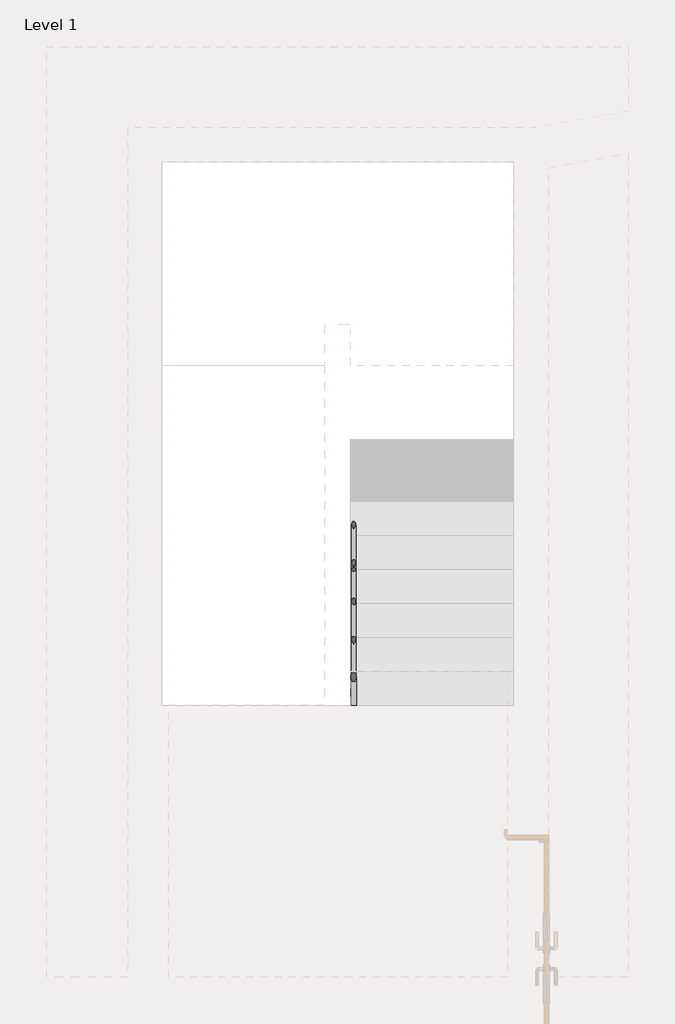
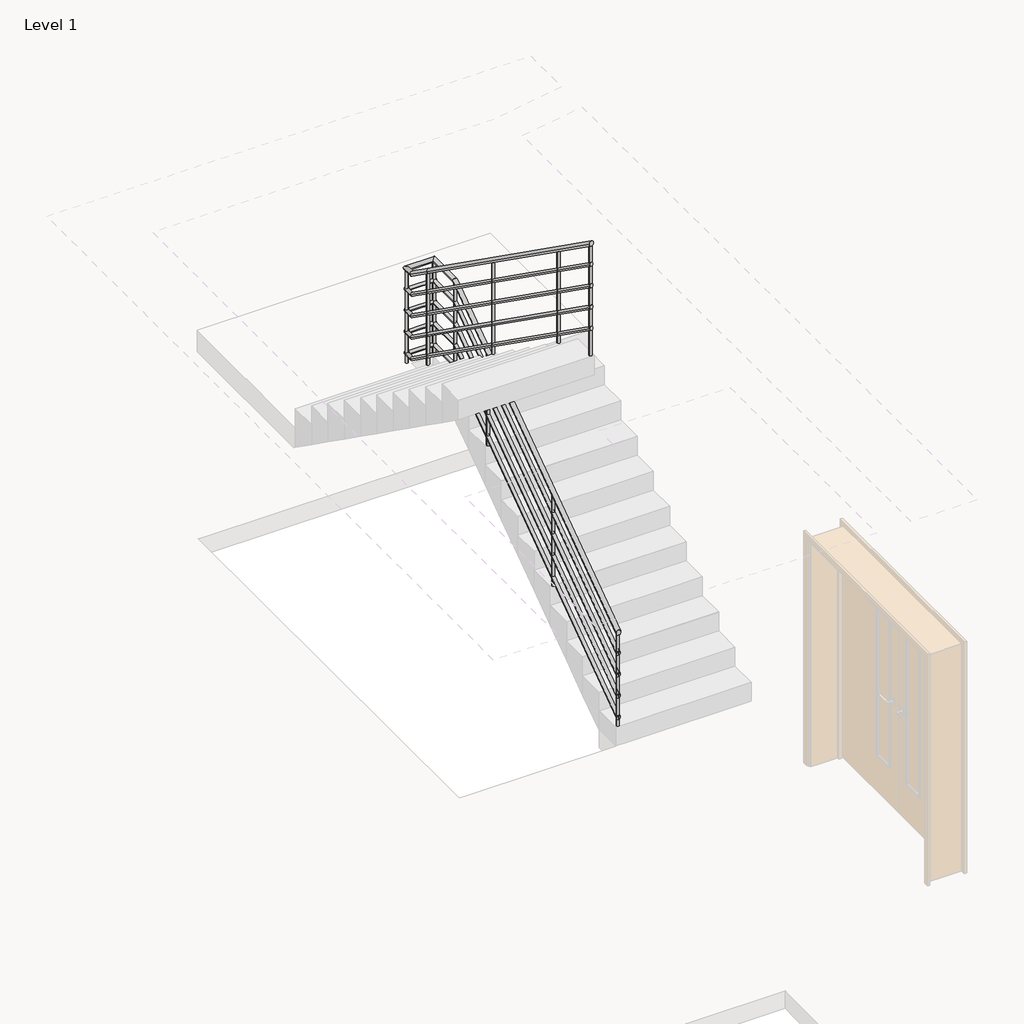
# One storey, part 11 of 12: 1 railing.
"""IFC4 building model written with IfcOpenShell, lengths in millimetres."""

from ifc_helpers import new_model, si_unit, point, frame, frame_2d, origin, place, context, project, spatial, circle_curve, ellipse_curve, trimmed, segment, composite_curve, outline, extrude, element, save
from ifc_brep_helpers import plane_surface, cylinder_surface, advanced_brep

model = new_model("IFC4")

# Units and contexts
model_context = context("Model", 3, world=origin())
ifc_project = project(units=[si_unit("LENGTHUNIT", "METRE", prefix="MILLI")], contexts=[model_context])

# Site, building, storey
site = spatial("IfcSite", under=ifc_project)
building = spatial("IfcBuilding", under=site)
storey = spatial("IfcBuildingStorey", under=building, Name="Level 1", Elevation=3900.0)

# Railing
placement = place(None, origin())
element("IfcRailing", 1, ObjectType="900mm_Pipe", at=placement, inside=storey, context=model_context, shape_type="SolidModel", body=[
    advanced_brep(
    [(29097.6000029, 3763.2000006, 4952.7548977), (29057.6000029, 3763.2000006, 4952.7548977), (29097.6000029, 6269.5712987, 6730.0), (29057.6000029, 6269.5712987, 6730.0), (29097.6000029, 6608.6000006, 6730.0), (29057.6000029, 6568.6000006, 6730.0), (28816.8000029, 6608.6000006, 6730.0), (28856.8000029, 6568.6000006, 6730.0), (28816.8000029, 6506.8287024, 6730.0), (28856.8000029, 6506.8287024, 6730.0), (28816.8000029, 6251.631425, 6910.9580695), (28856.8000029, 6251.631425, 6910.9580695), (28816.8000029, 3763.2000006, 8675.4821704), (28856.8000029, 3763.2000006, 8675.4821704)],
    [
        (0, 1, ellipse_curve(frame((29077.6000029, 3763.2000006, 4952.7548977), z_axis=(0.0, -1.0, 0.0), x_axis=(0.0, 0.0, -1.0)), 24.5178296, 20.0)),
        (1, 0, ellipse_curve(frame((29077.6000029, 3763.2000006, 4952.7548977), z_axis=(0.0, -1.0, 0.0), x_axis=(0.0, 0.0, -1.0)), 24.5178296, 20.0)),
        (0, 2),
        (2, 3, ellipse_curve(frame((29077.6000029, 6269.5712987, 6730.0), z_axis=(0.0, -0.9528202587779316, -0.3035350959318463), x_axis=(0.0, 0.30353509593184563, -0.952820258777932)), 20.9903178, 20.0)),
        (3, 1),
        (3, 2, ellipse_curve(frame((29077.6000029, 6269.5712987, 6730.0), z_axis=(0.0, -0.9528202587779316, -0.3035350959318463), x_axis=(0.0, 0.30353509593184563, -0.952820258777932)), 20.9903178, 20.0)),
        (2, 4),
        (4, 5, ellipse_curve(frame((29077.6000029, 6588.6000006, 6730.0), z_axis=(0.7071067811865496, -0.7071067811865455, 0.0), x_axis=(-0.7071067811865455, -0.7071067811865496, 0.0)), 28.2842712, 20.0)),
        (5, 3),
        (5, 4, ellipse_curve(frame((29077.6000029, 6588.6000006, 6730.0), z_axis=(0.7071067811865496, -0.7071067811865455, 0.0), x_axis=(-0.7071067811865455, -0.7071067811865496, 0.0)), 28.2842712, 20.0)),
        (4, 6),
        (6, 7, ellipse_curve(frame((28836.8000029, 6588.6000006, 6730.0), z_axis=(0.7071067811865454, 0.7071067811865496, 0.0), x_axis=(0.7071067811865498, -0.7071067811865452, 0.0)), 28.2842712, 20.0)),
        (7, 5),
        (7, 6, ellipse_curve(frame((28836.8000029, 6588.6000006, 6730.0), z_axis=(0.7071067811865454, 0.7071067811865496, 0.0), x_axis=(0.7071067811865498, -0.7071067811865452, 0.0)), 28.2842712, 20.0)),
        (6, 8),
        (8, 9, ellipse_curve(frame((28836.8000029, 6506.8287024, 6730.0), z_axis=(0.0, 0.9528202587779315, -0.3035350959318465), x_axis=(0.0, 0.3035350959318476, 0.9528202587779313)), 20.9903178, 20.0)),
        (9, 7),
        (9, 8, ellipse_curve(frame((28836.8000029, 6506.8287024, 6730.0), z_axis=(0.0, 0.9528202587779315, -0.3035350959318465), x_axis=(0.0, 0.3035350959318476, 0.9528202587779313)), 20.9903178, 20.0)),
        (8, 10),
        (10, 11, circle_curve(frame((28836.8000029, 6251.631425, 6910.9580695), z_axis=(0.0, 0.8157328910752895, -0.5784287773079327), x_axis=(1.0, 0.0, 0.0)), 20.0)),
        (11, 9),
        (11, 10, circle_curve(frame((28836.8000029, 6251.631425, 6910.9580695), z_axis=(0.0, 0.8157328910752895, -0.5784287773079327), x_axis=(1.0, 0.0, 0.0)), 20.0)),
        (12, 13, ellipse_curve(frame((28836.8000029, 3763.2000006, 8675.4821704), z_axis=(0.0, -1.0, 0.0), x_axis=(0.0, 0.0, -1.0)), 24.5178296, 20.0)),
        (13, 12, ellipse_curve(frame((28836.8000029, 3763.2000006, 8675.4821704), z_axis=(0.0, -1.0, 0.0), x_axis=(0.0, 0.0, -1.0)), 24.5178296, 20.0)),
        (10, 12),
        (13, 11),
    ],
    [
        plane_surface(frame((29077.6000029, 3763.2000006, 4977.2727273), z_axis=(0.0, -1.0, 0.0), x_axis=(0.0, 0.0, 1.0))),
        cylinder_surface(frame((29077.6000029, 3774.7685761, 4960.9580695), z_axis=(0.0, -0.8157328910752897, -0.5784287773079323), x_axis=(-1.0, 0.0, 0.0)), 20.0),
        cylinder_surface(frame((29077.6000029, 6263.2000006, 6730.0), z_axis=(0.0, -1.0, 0.0), x_axis=(-1.0, 0.0, 0.0)), 20.0),
        cylinder_surface(frame((29077.6000029, 6588.6000006, 6730.0), z_axis=(1.0, 0.0, 0.0), x_axis=(0.0, -1.0, 0.0)), 20.0),
        cylinder_surface(frame((28836.8000029, 6588.6000006, 6730.0), z_axis=(0.0, 1.0, 0.0), x_axis=(1.0, 0.0, 0.0)), 20.0),
        cylinder_surface(frame((28836.8000029, 6501.631425, 6733.6853422), z_axis=(0.0, 0.8157328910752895, -0.5784287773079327), x_axis=(1.0, 0.0, 0.0)), 20.0),
        plane_surface(frame((28836.8000029, 3763.2000006, 8700.0), z_axis=(0.0, -1.0, 0.0), x_axis=(0.0, 0.0, -1.0))),
        cylinder_surface(frame((28836.8000029, 6251.631425, 6910.9580695), z_axis=(0.0, 0.8157328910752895, -0.5784287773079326), x_axis=(1.0, 0.0, 0.0)), 20.0),
    ],
    [
        (0, [[1, 2]]),
        (1, [[-1, 3, 4, 5]]),
        (1, [[-2, -5, 6, -3]]),
        (2, [[-4, 7, 8, 9]]),
        (2, [[-6, -9, 10, -7]]),
        (3, [[-8, 11, 12, 13]]),
        (3, [[-10, -13, 14, -11]]),
        (4, [[-12, 15, 16, 17]]),
        (4, [[-14, -17, 18, -15]]),
        (5, [[-16, 19, 20, 21]]),
        (5, [[-18, -21, 22, -19]]),
        (6, [[23, 24]]),
        (7, [[-20, 25, -24, 26]]),
        (7, [[-22, -26, -23, -25]]),
    ],
),
    advanced_brep(
    [(29092.6000029, 3763.2000006, 4758.8843551), (29062.6000029, 3763.2000006, 4758.8843551), (29092.6000029, 6263.2000006, 6531.6116278), (29062.6000029, 6263.2000006, 6531.6116278)],
    [
        (0, 1, ellipse_curve(frame((29077.6000029, 3763.2000006, 4758.8843551), z_axis=(0.0, -1.0, 0.0), x_axis=(0.0, 0.0, -1.0)), 18.3883722, 15.0)),
        (1, 0, ellipse_curve(frame((29077.6000029, 3763.2000006, 4758.8843551), z_axis=(0.0, -1.0, 0.0), x_axis=(0.0, 0.0, -1.0)), 18.3883722, 15.0)),
        (2, 3, ellipse_curve(frame((29077.6000029, 6263.2000006, 6531.6116278), z_axis=(0.0, 1.0, 0.0), x_axis=(0.0, 0.0, -1.0)), 18.3883722, 15.0)),
        (3, 2, ellipse_curve(frame((29077.6000029, 6263.2000006, 6531.6116278), z_axis=(0.0, 1.0, 0.0), x_axis=(0.0, 0.0, -1.0)), 18.3883722, 15.0)),
        (0, 2),
        (3, 1),
    ],
    [
        plane_surface(frame((29077.6000029, 3763.2000006, 4777.2727273), z_axis=(0.0, -1.0, 0.0), x_axis=(0.0, 0.0, 1.0))),
        plane_surface(frame((29077.6000029, 6263.2000006, 6550.0), z_axis=(0.0, 1.0, 0.0), x_axis=(0.0, 0.0, 1.0))),
        cylinder_surface(frame((29077.6000029, 3771.8764322, 4765.0367339), z_axis=(0.0, -0.8157328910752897, -0.5784287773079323), x_axis=(-1.0, 0.0, 0.0)), 15.0),
    ],
    [
        (0, [[1, 2]]),
        (1, [[3, 4]]),
        (2, [[-1, 5, -4, 6]]),
        (2, [[-2, -6, -3, -5]]),
    ],
),
    advanced_brep(
    [(29092.6000029, 6263.2000006, 6535.0), (29062.6000029, 6263.2000006, 6535.0), (29092.6000029, 6573.6000006, 6535.0), (29062.6000029, 6573.6000006, 6535.0)],
    [
        (0, 1, circle_curve(frame((29077.6000029, 6263.2000006, 6535.0), z_axis=(0.0, -1.0, 0.0), x_axis=(-1.0, 0.0, 0.0)), 15.0)),
        (1, 0, circle_curve(frame((29077.6000029, 6263.2000006, 6535.0), z_axis=(0.0, -1.0, 0.0), x_axis=(-1.0, 0.0, 0.0)), 15.0)),
        (2, 3, circle_curve(frame((29077.6000029, 6573.6000006, 6535.0), z_axis=(0.0, 1.0, 0.0), x_axis=(-1.0, 0.0, 0.0)), 15.0)),
        (3, 2, circle_curve(frame((29077.6000029, 6573.6000006, 6535.0), z_axis=(0.0, 1.0, 0.0), x_axis=(-1.0, 0.0, 0.0)), 15.0)),
        (0, 2),
        (3, 1),
    ],
    [
        plane_surface(frame((29077.6000029, 6263.2000006, 6550.0), z_axis=(0.0, -1.0, 0.0), x_axis=(0.0, 0.0, 1.0))),
        plane_surface(frame((29077.6000029, 6573.6000006, 6550.0), z_axis=(0.0, 1.0, 0.0), x_axis=(0.0, 0.0, 1.0))),
        cylinder_surface(frame((29077.6000029, 6263.2000006, 6535.0), z_axis=(0.0, -1.0, 0.0), x_axis=(-1.0, 0.0, 0.0)), 15.0),
    ],
    [
        (0, [[1, 2]]),
        (1, [[3, 4]]),
        (2, [[-1, 5, -4, 6]]),
        (2, [[-2, -6, -3, -5]]),
    ],
),
    advanced_brep(
    [(29092.6000029, 6603.6000006, 6535.0), (29092.6000029, 6573.6000006, 6535.0), (28851.8000029, 6603.6000006, 6535.0), (28851.8000029, 6573.6000006, 6535.0)],
    [
        (0, 1, circle_curve(frame((29092.6000029, 6588.6000006, 6535.0), z_axis=(1.0, 0.0, 0.0), x_axis=(0.0, -1.0, 0.0)), 15.0)),
        (1, 0, circle_curve(frame((29092.6000029, 6588.6000006, 6535.0), z_axis=(1.0, 0.0, 0.0), x_axis=(0.0, -1.0, 0.0)), 15.0)),
        (2, 3, circle_curve(frame((28851.8000029, 6588.6000006, 6535.0), z_axis=(-1.0, 0.0, 0.0), x_axis=(0.0, -1.0, 0.0)), 15.0)),
        (3, 2, circle_curve(frame((28851.8000029, 6588.6000006, 6535.0), z_axis=(-1.0, 0.0, 0.0), x_axis=(0.0, -1.0, 0.0)), 15.0)),
        (0, 2),
        (3, 1),
    ],
    [
        plane_surface(frame((29092.6000029, 6588.6000006, 6550.0), z_axis=(1.0, 0.0, 0.0), x_axis=(0.0, -1.0, 0.0))),
        plane_surface(frame((28851.8000029, 6588.6000006, 6550.0), z_axis=(-1.0, 0.0, 0.0), x_axis=(0.0, -1.0, 0.0))),
        cylinder_surface(frame((29092.6000029, 6588.6000006, 6535.0), z_axis=(1.0, 0.0, 0.0), x_axis=(0.0, -1.0, 0.0)), 15.0),
    ],
    [
        (0, [[1, 2]]),
        (1, [[3, 4]]),
        (2, [[-1, 5, -4, 6]]),
        (2, [[-2, -6, -3, -5]]),
    ],
),
    advanced_brep(
    [(28821.8000029, 6603.6000006, 6535.0), (28851.8000029, 6603.6000006, 6535.0), (28821.8000029, 6508.421527, 6535.0), (28851.8000029, 6508.421527, 6535.0), (28821.8000029, 6263.2000006, 6708.8843551), (28851.8000029, 6263.2000006, 6708.8843551)],
    [
        (0, 1, circle_curve(frame((28836.8000029, 6603.6000006, 6535.0), z_axis=(0.0, 1.0, 0.0), x_axis=(1.0, 0.0, 0.0)), 15.0)),
        (1, 0, circle_curve(frame((28836.8000029, 6603.6000006, 6535.0), z_axis=(0.0, 1.0, 0.0), x_axis=(1.0, 0.0, 0.0)), 15.0)),
        (0, 2),
        (2, 3, ellipse_curve(frame((28836.8000029, 6508.421527, 6535.0), z_axis=(0.0, 0.9528202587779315, -0.3035350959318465), x_axis=(0.0, 0.3035350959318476, 0.9528202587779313)), 15.7427383, 15.0)),
        (3, 1),
        (3, 2, ellipse_curve(frame((28836.8000029, 6508.421527, 6535.0), z_axis=(0.0, 0.9528202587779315, -0.3035350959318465), x_axis=(0.0, 0.3035350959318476, 0.9528202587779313)), 15.7427383, 15.0)),
        (4, 5, ellipse_curve(frame((28836.8000029, 6263.2000006, 6708.8843551), z_axis=(0.0, -1.0, 0.0), x_axis=(0.0, 0.0, -1.0)), 18.3883722, 15.0)),
        (5, 4, ellipse_curve(frame((28836.8000029, 6263.2000006, 6708.8843551), z_axis=(0.0, -1.0, 0.0), x_axis=(0.0, 0.0, -1.0)), 18.3883722, 15.0)),
        (2, 4),
        (5, 3),
    ],
    [
        plane_surface(frame((28836.8000029, 6603.6000006, 6550.0), z_axis=(0.0, 1.0, 0.0), x_axis=(0.0, 0.0, -1.0))),
        cylinder_surface(frame((28836.8000029, 6603.6000006, 6535.0), z_axis=(0.0, 1.0, 0.0), x_axis=(1.0, 0.0, 0.0)), 15.0),
        plane_surface(frame((28836.8000029, 6263.2000006, 6727.2727273), z_axis=(0.0, -1.0, 0.0), x_axis=(0.0, 0.0, -1.0))),
        cylinder_surface(frame((28836.8000029, 6504.5235689, 6537.7640066), z_axis=(0.0, 0.8157328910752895, -0.5784287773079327), x_axis=(1.0, 0.0, 0.0)), 15.0),
    ],
    [
        (0, [[1, 2]]),
        (1, [[-1, 3, 4, 5]]),
        (1, [[-2, -5, 6, -3]]),
        (2, [[7, 8]]),
        (3, [[-4, 9, -8, 10]]),
        (3, [[-6, -10, -7, -9]]),
    ],
),
    advanced_brep(
    [(28821.8000029, 6263.2000006, 6708.8843551), (28851.8000029, 6263.2000006, 6708.8843551), (28821.8000029, 3763.2000006, 8481.6116278), (28851.8000029, 3763.2000006, 8481.6116278)],
    [
        (0, 1, ellipse_curve(frame((28836.8000029, 6263.2000006, 6708.8843551), z_axis=(0.0, 1.0, 0.0), x_axis=(0.0, 0.0, -1.0)), 18.3883722, 15.0)),
        (1, 0, ellipse_curve(frame((28836.8000029, 6263.2000006, 6708.8843551), z_axis=(0.0, 1.0, 0.0), x_axis=(0.0, 0.0, -1.0)), 18.3883722, 15.0)),
        (2, 3, ellipse_curve(frame((28836.8000029, 3763.2000006, 8481.6116278), z_axis=(0.0, -1.0, 0.0), x_axis=(0.0, 0.0, -1.0)), 18.3883722, 15.0)),
        (3, 2, ellipse_curve(frame((28836.8000029, 3763.2000006, 8481.6116278), z_axis=(0.0, -1.0, 0.0), x_axis=(0.0, 0.0, -1.0)), 18.3883722, 15.0)),
        (0, 2),
        (3, 1),
    ],
    [
        plane_surface(frame((28836.8000029, 6263.2000006, 6727.2727273), z_axis=(0.0, 1.0, 0.0), x_axis=(0.0, 0.0, -1.0))),
        plane_surface(frame((28836.8000029, 3763.2000006, 8500.0), z_axis=(0.0, -1.0, 0.0), x_axis=(0.0, 0.0, -1.0))),
        cylinder_surface(frame((28836.8000029, 6254.5235689, 6715.0367339), z_axis=(0.0, 0.8157328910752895, -0.5784287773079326), x_axis=(1.0, 0.0, 0.0)), 15.0),
    ],
    [
        (0, [[1, 2]]),
        (1, [[3, 4]]),
        (2, [[-1, 5, -4, 6]]),
        (2, [[-2, -6, -3, -5]]),
    ],
),
    advanced_brep(
    [(29092.6000029, 3763.2000006, 4558.8843551), (29062.6000029, 3763.2000006, 4558.8843551), (29092.6000029, 6263.2000006, 6331.6116278), (29062.6000029, 6263.2000006, 6331.6116278)],
    [
        (0, 1, ellipse_curve(frame((29077.6000029, 3763.2000006, 4558.8843551), z_axis=(0.0, -1.0, 0.0), x_axis=(0.0, 0.0, -1.0)), 18.3883722, 15.0)),
        (1, 0, ellipse_curve(frame((29077.6000029, 3763.2000006, 4558.8843551), z_axis=(0.0, -1.0, 0.0), x_axis=(0.0, 0.0, -1.0)), 18.3883722, 15.0)),
        (2, 3, ellipse_curve(frame((29077.6000029, 6263.2000006, 6331.6116278), z_axis=(0.0, 1.0, 0.0), x_axis=(0.0, 0.0, -1.0)), 18.3883722, 15.0)),
        (3, 2, ellipse_curve(frame((29077.6000029, 6263.2000006, 6331.6116278), z_axis=(0.0, 1.0, 0.0), x_axis=(0.0, 0.0, -1.0)), 18.3883722, 15.0)),
        (0, 2),
        (3, 1),
    ],
    [
        plane_surface(frame((29077.6000029, 3763.2000006, 4577.2727273), z_axis=(0.0, -1.0, 0.0), x_axis=(0.0, 0.0, 1.0))),
        plane_surface(frame((29077.6000029, 6263.2000006, 6350.0), z_axis=(0.0, 1.0, 0.0), x_axis=(0.0, 0.0, 1.0))),
        cylinder_surface(frame((29077.6000029, 3771.8764322, 4565.0367339), z_axis=(0.0, -0.8157328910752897, -0.5784287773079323), x_axis=(-1.0, 0.0, 0.0)), 15.0),
    ],
    [
        (0, [[1, 2]]),
        (1, [[3, 4]]),
        (2, [[-1, 5, -4, 6]]),
        (2, [[-2, -6, -3, -5]]),
    ],
),
    advanced_brep(
    [(29092.6000029, 6263.2000006, 6335.0), (29062.6000029, 6263.2000006, 6335.0), (29092.6000029, 6573.6000006, 6335.0), (29062.6000029, 6573.6000006, 6335.0)],
    [
        (0, 1, circle_curve(frame((29077.6000029, 6263.2000006, 6335.0), z_axis=(0.0, -1.0, 0.0), x_axis=(-1.0, 0.0, 0.0)), 15.0)),
        (1, 0, circle_curve(frame((29077.6000029, 6263.2000006, 6335.0), z_axis=(0.0, -1.0, 0.0), x_axis=(-1.0, 0.0, 0.0)), 15.0)),
        (2, 3, circle_curve(frame((29077.6000029, 6573.6000006, 6335.0), z_axis=(0.0, 1.0, 0.0), x_axis=(-1.0, 0.0, 0.0)), 15.0)),
        (3, 2, circle_curve(frame((29077.6000029, 6573.6000006, 6335.0), z_axis=(0.0, 1.0, 0.0), x_axis=(-1.0, 0.0, 0.0)), 15.0)),
        (0, 2),
        (3, 1),
    ],
    [
        plane_surface(frame((29077.6000029, 6263.2000006, 6350.0), z_axis=(0.0, -1.0, 0.0), x_axis=(0.0, 0.0, 1.0))),
        plane_surface(frame((29077.6000029, 6573.6000006, 6350.0), z_axis=(0.0, 1.0, 0.0), x_axis=(0.0, 0.0, 1.0))),
        cylinder_surface(frame((29077.6000029, 6263.2000006, 6335.0), z_axis=(0.0, -1.0, 0.0), x_axis=(-1.0, 0.0, 0.0)), 15.0),
    ],
    [
        (0, [[1, 2]]),
        (1, [[3, 4]]),
        (2, [[-1, 5, -4, 6]]),
        (2, [[-2, -6, -3, -5]]),
    ],
),
    advanced_brep(
    [(29092.6000029, 6603.6000006, 6335.0), (29092.6000029, 6573.6000006, 6335.0), (28851.8000029, 6603.6000006, 6335.0), (28851.8000029, 6573.6000006, 6335.0)],
    [
        (0, 1, circle_curve(frame((29092.6000029, 6588.6000006, 6335.0), z_axis=(1.0, 0.0, 0.0), x_axis=(0.0, -1.0, 0.0)), 15.0)),
        (1, 0, circle_curve(frame((29092.6000029, 6588.6000006, 6335.0), z_axis=(1.0, 0.0, 0.0), x_axis=(0.0, -1.0, 0.0)), 15.0)),
        (2, 3, circle_curve(frame((28851.8000029, 6588.6000006, 6335.0), z_axis=(-1.0, 0.0, 0.0), x_axis=(0.0, -1.0, 0.0)), 15.0)),
        (3, 2, circle_curve(frame((28851.8000029, 6588.6000006, 6335.0), z_axis=(-1.0, 0.0, 0.0), x_axis=(0.0, -1.0, 0.0)), 15.0)),
        (0, 2),
        (3, 1),
    ],
    [
        plane_surface(frame((29092.6000029, 6588.6000006, 6350.0), z_axis=(1.0, 0.0, 0.0), x_axis=(0.0, -1.0, 0.0))),
        plane_surface(frame((28851.8000029, 6588.6000006, 6350.0), z_axis=(-1.0, 0.0, 0.0), x_axis=(0.0, -1.0, 0.0))),
        cylinder_surface(frame((29092.6000029, 6588.6000006, 6335.0), z_axis=(1.0, 0.0, 0.0), x_axis=(0.0, -1.0, 0.0)), 15.0),
    ],
    [
        (0, [[1, 2]]),
        (1, [[3, 4]]),
        (2, [[-1, 5, -4, 6]]),
        (2, [[-2, -6, -3, -5]]),
    ],
),
    advanced_brep(
    [(28821.8000029, 6603.6000006, 6335.0), (28851.8000029, 6603.6000006, 6335.0), (28821.8000029, 6508.421527, 6335.0), (28851.8000029, 6508.421527, 6335.0), (28821.8000029, 6263.2000006, 6508.8843551), (28851.8000029, 6263.2000006, 6508.8843551)],
    [
        (0, 1, circle_curve(frame((28836.8000029, 6603.6000006, 6335.0), z_axis=(0.0, 1.0, 0.0), x_axis=(1.0, 0.0, 0.0)), 15.0)),
        (1, 0, circle_curve(frame((28836.8000029, 6603.6000006, 6335.0), z_axis=(0.0, 1.0, 0.0), x_axis=(1.0, 0.0, 0.0)), 15.0)),
        (0, 2),
        (2, 3, ellipse_curve(frame((28836.8000029, 6508.421527, 6335.0), z_axis=(0.0, 0.9528202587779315, -0.3035350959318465), x_axis=(0.0, 0.3035350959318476, 0.9528202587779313)), 15.7427383, 15.0)),
        (3, 1),
        (3, 2, ellipse_curve(frame((28836.8000029, 6508.421527, 6335.0), z_axis=(0.0, 0.9528202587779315, -0.3035350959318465), x_axis=(0.0, 0.3035350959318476, 0.9528202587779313)), 15.7427383, 15.0)),
        (4, 5, ellipse_curve(frame((28836.8000029, 6263.2000006, 6508.8843551), z_axis=(0.0, -1.0, 0.0), x_axis=(0.0, 0.0, -1.0)), 18.3883722, 15.0)),
        (5, 4, ellipse_curve(frame((28836.8000029, 6263.2000006, 6508.8843551), z_axis=(0.0, -1.0, 0.0), x_axis=(0.0, 0.0, -1.0)), 18.3883722, 15.0)),
        (2, 4),
        (5, 3),
    ],
    [
        plane_surface(frame((28836.8000029, 6603.6000006, 6350.0), z_axis=(0.0, 1.0, 0.0), x_axis=(0.0, 0.0, -1.0))),
        cylinder_surface(frame((28836.8000029, 6603.6000006, 6335.0), z_axis=(0.0, 1.0, 0.0), x_axis=(1.0, 0.0, 0.0)), 15.0),
        plane_surface(frame((28836.8000029, 6263.2000006, 6527.2727273), z_axis=(0.0, -1.0, 0.0), x_axis=(0.0, 0.0, -1.0))),
        cylinder_surface(frame((28836.8000029, 6504.5235689, 6337.7640066), z_axis=(0.0, 0.8157328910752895, -0.5784287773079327), x_axis=(1.0, 0.0, 0.0)), 15.0),
    ],
    [
        (0, [[1, 2]]),
        (1, [[-1, 3, 4, 5]]),
        (1, [[-2, -5, 6, -3]]),
        (2, [[7, 8]]),
        (3, [[-4, 9, -8, 10]]),
        (3, [[-6, -10, -7, -9]]),
    ],
),
    advanced_brep(
    [(28821.8000029, 6263.2000006, 6508.8843551), (28851.8000029, 6263.2000006, 6508.8843551), (28821.8000029, 3763.2000006, 8281.6116278), (28851.8000029, 3763.2000006, 8281.6116278)],
    [
        (0, 1, ellipse_curve(frame((28836.8000029, 6263.2000006, 6508.8843551), z_axis=(0.0, 1.0, 0.0), x_axis=(0.0, 0.0, -1.0)), 18.3883722, 15.0)),
        (1, 0, ellipse_curve(frame((28836.8000029, 6263.2000006, 6508.8843551), z_axis=(0.0, 1.0, 0.0), x_axis=(0.0, 0.0, -1.0)), 18.3883722, 15.0)),
        (2, 3, ellipse_curve(frame((28836.8000029, 3763.2000006, 8281.6116278), z_axis=(0.0, -1.0, 0.0), x_axis=(0.0, 0.0, -1.0)), 18.3883722, 15.0)),
        (3, 2, ellipse_curve(frame((28836.8000029, 3763.2000006, 8281.6116278), z_axis=(0.0, -1.0, 0.0), x_axis=(0.0, 0.0, -1.0)), 18.3883722, 15.0)),
        (0, 2),
        (3, 1),
    ],
    [
        plane_surface(frame((28836.8000029, 6263.2000006, 6527.2727273), z_axis=(0.0, 1.0, 0.0), x_axis=(0.0, 0.0, -1.0))),
        plane_surface(frame((28836.8000029, 3763.2000006, 8300.0), z_axis=(0.0, -1.0, 0.0), x_axis=(0.0, 0.0, -1.0))),
        cylinder_surface(frame((28836.8000029, 6254.5235689, 6515.0367339), z_axis=(0.0, 0.8157328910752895, -0.5784287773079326), x_axis=(1.0, 0.0, 0.0)), 15.0),
    ],
    [
        (0, [[1, 2]]),
        (1, [[3, 4]]),
        (2, [[-1, 5, -4, 6]]),
        (2, [[-2, -6, -3, -5]]),
    ],
),
    advanced_brep(
    [(29092.6000029, 3763.2000006, 4358.8843551), (29062.6000029, 3763.2000006, 4358.8843551), (29092.6000029, 6263.2000006, 6131.6116278), (29062.6000029, 6263.2000006, 6131.6116278)],
    [
        (0, 1, ellipse_curve(frame((29077.6000029, 3763.2000006, 4358.8843551), z_axis=(0.0, -1.0, 0.0), x_axis=(0.0, 0.0, -1.0)), 18.3883722, 15.0)),
        (1, 0, ellipse_curve(frame((29077.6000029, 3763.2000006, 4358.8843551), z_axis=(0.0, -1.0, 0.0), x_axis=(0.0, 0.0, -1.0)), 18.3883722, 15.0)),
        (2, 3, ellipse_curve(frame((29077.6000029, 6263.2000006, 6131.6116278), z_axis=(0.0, 1.0, 0.0), x_axis=(0.0, 0.0, -1.0)), 18.3883722, 15.0)),
        (3, 2, ellipse_curve(frame((29077.6000029, 6263.2000006, 6131.6116278), z_axis=(0.0, 1.0, 0.0), x_axis=(0.0, 0.0, -1.0)), 18.3883722, 15.0)),
        (0, 2),
        (3, 1),
    ],
    [
        plane_surface(frame((29077.6000029, 3763.2000006, 4377.2727273), z_axis=(0.0, -1.0, 0.0), x_axis=(0.0, 0.0, 1.0))),
        plane_surface(frame((29077.6000029, 6263.2000006, 6150.0), z_axis=(0.0, 1.0, 0.0), x_axis=(0.0, 0.0, 1.0))),
        cylinder_surface(frame((29077.6000029, 3771.8764322, 4365.0367339), z_axis=(0.0, -0.8157328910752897, -0.5784287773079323), x_axis=(-1.0, 0.0, 0.0)), 15.0),
    ],
    [
        (0, [[1, 2]]),
        (1, [[3, 4]]),
        (2, [[-1, 5, -4, 6]]),
        (2, [[-2, -6, -3, -5]]),
    ],
),
    advanced_brep(
    [(29092.6000029, 6263.2000006, 6135.0), (29062.6000029, 6263.2000006, 6135.0), (29092.6000029, 6573.6000006, 6135.0), (29062.6000029, 6573.6000006, 6135.0)],
    [
        (0, 1, circle_curve(frame((29077.6000029, 6263.2000006, 6135.0), z_axis=(0.0, -1.0, 0.0), x_axis=(-1.0, 0.0, 0.0)), 15.0)),
        (1, 0, circle_curve(frame((29077.6000029, 6263.2000006, 6135.0), z_axis=(0.0, -1.0, 0.0), x_axis=(-1.0, 0.0, 0.0)), 15.0)),
        (2, 3, circle_curve(frame((29077.6000029, 6573.6000006, 6135.0), z_axis=(0.0, 1.0, 0.0), x_axis=(-1.0, 0.0, 0.0)), 15.0)),
        (3, 2, circle_curve(frame((29077.6000029, 6573.6000006, 6135.0), z_axis=(0.0, 1.0, 0.0), x_axis=(-1.0, 0.0, 0.0)), 15.0)),
        (0, 2),
        (3, 1),
    ],
    [
        plane_surface(frame((29077.6000029, 6263.2000006, 6150.0), z_axis=(0.0, -1.0, 0.0), x_axis=(0.0, 0.0, 1.0))),
        plane_surface(frame((29077.6000029, 6573.6000006, 6150.0), z_axis=(0.0, 1.0, 0.0), x_axis=(0.0, 0.0, 1.0))),
        cylinder_surface(frame((29077.6000029, 6263.2000006, 6135.0), z_axis=(0.0, -1.0, 0.0), x_axis=(-1.0, 0.0, 0.0)), 15.0),
    ],
    [
        (0, [[1, 2]]),
        (1, [[3, 4]]),
        (2, [[-1, 5, -4, 6]]),
        (2, [[-2, -6, -3, -5]]),
    ],
),
    advanced_brep(
    [(29092.6000029, 6603.6000006, 6135.0), (29092.6000029, 6573.6000006, 6135.0), (28851.8000029, 6603.6000006, 6135.0), (28851.8000029, 6573.6000006, 6135.0)],
    [
        (0, 1, circle_curve(frame((29092.6000029, 6588.6000006, 6135.0), z_axis=(1.0, 0.0, 0.0), x_axis=(0.0, -1.0, 0.0)), 15.0)),
        (1, 0, circle_curve(frame((29092.6000029, 6588.6000006, 6135.0), z_axis=(1.0, 0.0, 0.0), x_axis=(0.0, -1.0, 0.0)), 15.0)),
        (2, 3, circle_curve(frame((28851.8000029, 6588.6000006, 6135.0), z_axis=(-1.0, 0.0, 0.0), x_axis=(0.0, -1.0, 0.0)), 15.0)),
        (3, 2, circle_curve(frame((28851.8000029, 6588.6000006, 6135.0), z_axis=(-1.0, 0.0, 0.0), x_axis=(0.0, -1.0, 0.0)), 15.0)),
        (0, 2),
        (3, 1),
    ],
    [
        plane_surface(frame((29092.6000029, 6588.6000006, 6150.0), z_axis=(1.0, 0.0, 0.0), x_axis=(0.0, -1.0, 0.0))),
        plane_surface(frame((28851.8000029, 6588.6000006, 6150.0), z_axis=(-1.0, 0.0, 0.0), x_axis=(0.0, -1.0, 0.0))),
        cylinder_surface(frame((29092.6000029, 6588.6000006, 6135.0), z_axis=(1.0, 0.0, 0.0), x_axis=(0.0, -1.0, 0.0)), 15.0),
    ],
    [
        (0, [[1, 2]]),
        (1, [[3, 4]]),
        (2, [[-1, 5, -4, 6]]),
        (2, [[-2, -6, -3, -5]]),
    ],
),
    advanced_brep(
    [(28821.8000029, 6603.6000006, 6135.0), (28851.8000029, 6603.6000006, 6135.0), (28821.8000029, 6508.421527, 6135.0), (28851.8000029, 6508.421527, 6135.0), (28821.8000029, 6263.2000006, 6308.8843551), (28851.8000029, 6263.2000006, 6308.8843551)],
    [
        (0, 1, circle_curve(frame((28836.8000029, 6603.6000006, 6135.0), z_axis=(0.0, 1.0, 0.0), x_axis=(1.0, 0.0, 0.0)), 15.0)),
        (1, 0, circle_curve(frame((28836.8000029, 6603.6000006, 6135.0), z_axis=(0.0, 1.0, 0.0), x_axis=(1.0, 0.0, 0.0)), 15.0)),
        (0, 2),
        (2, 3, ellipse_curve(frame((28836.8000029, 6508.421527, 6135.0), z_axis=(0.0, 0.9528202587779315, -0.3035350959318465), x_axis=(0.0, 0.3035350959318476, 0.9528202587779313)), 15.7427383, 15.0)),
        (3, 1),
        (3, 2, ellipse_curve(frame((28836.8000029, 6508.421527, 6135.0), z_axis=(0.0, 0.9528202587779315, -0.3035350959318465), x_axis=(0.0, 0.3035350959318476, 0.9528202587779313)), 15.7427383, 15.0)),
        (4, 5, ellipse_curve(frame((28836.8000029, 6263.2000006, 6308.8843551), z_axis=(0.0, -1.0, 0.0), x_axis=(0.0, 0.0, -1.0)), 18.3883722, 15.0)),
        (5, 4, ellipse_curve(frame((28836.8000029, 6263.2000006, 6308.8843551), z_axis=(0.0, -1.0, 0.0), x_axis=(0.0, 0.0, -1.0)), 18.3883722, 15.0)),
        (2, 4),
        (5, 3),
    ],
    [
        plane_surface(frame((28836.8000029, 6603.6000006, 6150.0), z_axis=(0.0, 1.0, 0.0), x_axis=(0.0, 0.0, -1.0))),
        cylinder_surface(frame((28836.8000029, 6603.6000006, 6135.0), z_axis=(0.0, 1.0, 0.0), x_axis=(1.0, 0.0, 0.0)), 15.0),
        plane_surface(frame((28836.8000029, 6263.2000006, 6327.2727273), z_axis=(0.0, -1.0, 0.0), x_axis=(0.0, 0.0, -1.0))),
        cylinder_surface(frame((28836.8000029, 6504.5235689, 6137.7640066), z_axis=(0.0, 0.8157328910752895, -0.5784287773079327), x_axis=(1.0, 0.0, 0.0)), 15.0),
    ],
    [
        (0, [[1, 2]]),
        (1, [[-1, 3, 4, 5]]),
        (1, [[-2, -5, 6, -3]]),
        (2, [[7, 8]]),
        (3, [[-4, 9, -8, 10]]),
        (3, [[-6, -10, -7, -9]]),
    ],
),
    advanced_brep(
    [(28821.8000029, 6263.2000006, 6308.8843551), (28851.8000029, 6263.2000006, 6308.8843551), (28821.8000029, 3763.2000006, 8081.6116278), (28851.8000029, 3763.2000006, 8081.6116278)],
    [
        (0, 1, ellipse_curve(frame((28836.8000029, 6263.2000006, 6308.8843551), z_axis=(0.0, 1.0, 0.0), x_axis=(0.0, 0.0, -1.0)), 18.3883722, 15.0)),
        (1, 0, ellipse_curve(frame((28836.8000029, 6263.2000006, 6308.8843551), z_axis=(0.0, 1.0, 0.0), x_axis=(0.0, 0.0, -1.0)), 18.3883722, 15.0)),
        (2, 3, ellipse_curve(frame((28836.8000029, 3763.2000006, 8081.6116278), z_axis=(0.0, -1.0, 0.0), x_axis=(0.0, 0.0, -1.0)), 18.3883722, 15.0)),
        (3, 2, ellipse_curve(frame((28836.8000029, 3763.2000006, 8081.6116278), z_axis=(0.0, -1.0, 0.0), x_axis=(0.0, 0.0, -1.0)), 18.3883722, 15.0)),
        (0, 2),
        (3, 1),
    ],
    [
        plane_surface(frame((28836.8000029, 6263.2000006, 6327.2727273), z_axis=(0.0, 1.0, 0.0), x_axis=(0.0, 0.0, -1.0))),
        plane_surface(frame((28836.8000029, 3763.2000006, 8100.0), z_axis=(0.0, -1.0, 0.0), x_axis=(0.0, 0.0, -1.0))),
        cylinder_surface(frame((28836.8000029, 6254.5235689, 6315.0367339), z_axis=(0.0, 0.8157328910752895, -0.5784287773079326), x_axis=(1.0, 0.0, 0.0)), 15.0),
    ],
    [
        (0, [[1, 2]]),
        (1, [[3, 4]]),
        (2, [[-1, 5, -4, 6]]),
        (2, [[-2, -6, -3, -5]]),
    ],
),
    advanced_brep(
    [(29092.6000029, 3763.2000006, 4158.8843551), (29062.6000029, 3763.2000006, 4158.8843551), (29092.6000029, 6263.2000006, 5931.6116278), (29062.6000029, 6263.2000006, 5931.6116278)],
    [
        (0, 1, ellipse_curve(frame((29077.6000029, 3763.2000006, 4158.8843551), z_axis=(0.0, -1.0, 0.0), x_axis=(0.0, 0.0, -1.0)), 18.3883722, 15.0)),
        (1, 0, ellipse_curve(frame((29077.6000029, 3763.2000006, 4158.8843551), z_axis=(0.0, -1.0, 0.0), x_axis=(0.0, 0.0, -1.0)), 18.3883722, 15.0)),
        (2, 3, ellipse_curve(frame((29077.6000029, 6263.2000006, 5931.6116278), z_axis=(0.0, 1.0, 0.0), x_axis=(0.0, 0.0, -1.0)), 18.3883722, 15.0)),
        (3, 2, ellipse_curve(frame((29077.6000029, 6263.2000006, 5931.6116278), z_axis=(0.0, 1.0, 0.0), x_axis=(0.0, 0.0, -1.0)), 18.3883722, 15.0)),
        (0, 2),
        (3, 1),
    ],
    [
        plane_surface(frame((29077.6000029, 3763.2000006, 4177.2727273), z_axis=(0.0, -1.0, 0.0), x_axis=(0.0, 0.0, 1.0))),
        plane_surface(frame((29077.6000029, 6263.2000006, 5950.0), z_axis=(0.0, 1.0, 0.0), x_axis=(0.0, 0.0, 1.0))),
        cylinder_surface(frame((29077.6000029, 3771.8764322, 4165.0367339), z_axis=(0.0, -0.8157328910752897, -0.5784287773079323), x_axis=(-1.0, 0.0, 0.0)), 15.0),
    ],
    [
        (0, [[1, 2]]),
        (1, [[3, 4]]),
        (2, [[-1, 5, -4, 6]]),
        (2, [[-2, -6, -3, -5]]),
    ],
),
    advanced_brep(
    [(29092.6000029, 6263.2000006, 5935.0), (29062.6000029, 6263.2000006, 5935.0), (29092.6000029, 6573.6000006, 5935.0), (29062.6000029, 6573.6000006, 5935.0)],
    [
        (0, 1, circle_curve(frame((29077.6000029, 6263.2000006, 5935.0), z_axis=(0.0, -1.0, 0.0), x_axis=(-1.0, 0.0, 0.0)), 15.0)),
        (1, 0, circle_curve(frame((29077.6000029, 6263.2000006, 5935.0), z_axis=(0.0, -1.0, 0.0), x_axis=(-1.0, 0.0, 0.0)), 15.0)),
        (2, 3, circle_curve(frame((29077.6000029, 6573.6000006, 5935.0), z_axis=(0.0, 1.0, 0.0), x_axis=(-1.0, 0.0, 0.0)), 15.0)),
        (3, 2, circle_curve(frame((29077.6000029, 6573.6000006, 5935.0), z_axis=(0.0, 1.0, 0.0), x_axis=(-1.0, 0.0, 0.0)), 15.0)),
        (0, 2),
        (3, 1),
    ],
    [
        plane_surface(frame((29077.6000029, 6263.2000006, 5950.0), z_axis=(0.0, -1.0, 0.0), x_axis=(0.0, 0.0, 1.0))),
        plane_surface(frame((29077.6000029, 6573.6000006, 5950.0), z_axis=(0.0, 1.0, 0.0), x_axis=(0.0, 0.0, 1.0))),
        cylinder_surface(frame((29077.6000029, 6263.2000006, 5935.0), z_axis=(0.0, -1.0, 0.0), x_axis=(-1.0, 0.0, 0.0)), 15.0),
    ],
    [
        (0, [[1, 2]]),
        (1, [[3, 4]]),
        (2, [[-1, 5, -4, 6]]),
        (2, [[-2, -6, -3, -5]]),
    ],
),
    advanced_brep(
    [(29092.6000029, 6603.6000006, 5935.0), (29092.6000029, 6573.6000006, 5935.0), (28851.8000029, 6603.6000006, 5935.0), (28851.8000029, 6573.6000006, 5935.0)],
    [
        (0, 1, circle_curve(frame((29092.6000029, 6588.6000006, 5935.0), z_axis=(1.0, 0.0, 0.0), x_axis=(0.0, -1.0, 0.0)), 15.0)),
        (1, 0, circle_curve(frame((29092.6000029, 6588.6000006, 5935.0), z_axis=(1.0, 0.0, 0.0), x_axis=(0.0, -1.0, 0.0)), 15.0)),
        (2, 3, circle_curve(frame((28851.8000029, 6588.6000006, 5935.0), z_axis=(-1.0, 0.0, 0.0), x_axis=(0.0, -1.0, 0.0)), 15.0)),
        (3, 2, circle_curve(frame((28851.8000029, 6588.6000006, 5935.0), z_axis=(-1.0, 0.0, 0.0), x_axis=(0.0, -1.0, 0.0)), 15.0)),
        (0, 2),
        (3, 1),
    ],
    [
        plane_surface(frame((29092.6000029, 6588.6000006, 5950.0), z_axis=(1.0, 0.0, 0.0), x_axis=(0.0, -1.0, 0.0))),
        plane_surface(frame((28851.8000029, 6588.6000006, 5950.0), z_axis=(-1.0, 0.0, 0.0), x_axis=(0.0, -1.0, 0.0))),
        cylinder_surface(frame((29092.6000029, 6588.6000006, 5935.0), z_axis=(1.0, 0.0, 0.0), x_axis=(0.0, -1.0, 0.0)), 15.0),
    ],
    [
        (0, [[1, 2]]),
        (1, [[3, 4]]),
        (2, [[-1, 5, -4, 6]]),
        (2, [[-2, -6, -3, -5]]),
    ],
),
    advanced_brep(
    [(28821.8000029, 6603.6000006, 5935.0), (28851.8000029, 6603.6000006, 5935.0), (28821.8000029, 6508.421527, 5935.0), (28851.8000029, 6508.421527, 5935.0), (28821.8000029, 6263.2000006, 6108.8843551), (28851.8000029, 6263.2000006, 6108.8843551)],
    [
        (0, 1, circle_curve(frame((28836.8000029, 6603.6000006, 5935.0), z_axis=(0.0, 1.0, 0.0), x_axis=(1.0, 0.0, 0.0)), 15.0)),
        (1, 0, circle_curve(frame((28836.8000029, 6603.6000006, 5935.0), z_axis=(0.0, 1.0, 0.0), x_axis=(1.0, 0.0, 0.0)), 15.0)),
        (0, 2),
        (2, 3, ellipse_curve(frame((28836.8000029, 6508.421527, 5935.0), z_axis=(0.0, 0.9528202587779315, -0.3035350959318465), x_axis=(0.0, 0.3035350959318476, 0.9528202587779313)), 15.7427383, 15.0)),
        (3, 1),
        (3, 2, ellipse_curve(frame((28836.8000029, 6508.421527, 5935.0), z_axis=(0.0, 0.9528202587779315, -0.3035350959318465), x_axis=(0.0, 0.3035350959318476, 0.9528202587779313)), 15.7427383, 15.0)),
        (4, 5, ellipse_curve(frame((28836.8000029, 6263.2000006, 6108.8843551), z_axis=(0.0, -1.0, 0.0), x_axis=(0.0, 0.0, -1.0)), 18.3883722, 15.0)),
        (5, 4, ellipse_curve(frame((28836.8000029, 6263.2000006, 6108.8843551), z_axis=(0.0, -1.0, 0.0), x_axis=(0.0, 0.0, -1.0)), 18.3883722, 15.0)),
        (2, 4),
        (5, 3),
    ],
    [
        plane_surface(frame((28836.8000029, 6603.6000006, 5950.0), z_axis=(0.0, 1.0, 0.0), x_axis=(0.0, 0.0, -1.0))),
        cylinder_surface(frame((28836.8000029, 6603.6000006, 5935.0), z_axis=(0.0, 1.0, 0.0), x_axis=(1.0, 0.0, 0.0)), 15.0),
        plane_surface(frame((28836.8000029, 6263.2000006, 6127.2727273), z_axis=(0.0, -1.0, 0.0), x_axis=(0.0, 0.0, -1.0))),
        cylinder_surface(frame((28836.8000029, 6504.5235689, 5937.7640066), z_axis=(0.0, 0.8157328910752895, -0.5784287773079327), x_axis=(1.0, 0.0, 0.0)), 15.0),
    ],
    [
        (0, [[1, 2]]),
        (1, [[-1, 3, 4, 5]]),
        (1, [[-2, -5, 6, -3]]),
        (2, [[7, 8]]),
        (3, [[-4, 9, -8, 10]]),
        (3, [[-6, -10, -7, -9]]),
    ],
),
    advanced_brep(
    [(28821.8000029, 6263.2000006, 6108.8843551), (28851.8000029, 6263.2000006, 6108.8843551), (28821.8000029, 3763.2000006, 7881.6116278), (28851.8000029, 3763.2000006, 7881.6116278)],
    [
        (0, 1, ellipse_curve(frame((28836.8000029, 6263.2000006, 6108.8843551), z_axis=(0.0, 1.0, 0.0), x_axis=(0.0, 0.0, -1.0)), 18.3883722, 15.0)),
        (1, 0, ellipse_curve(frame((28836.8000029, 6263.2000006, 6108.8843551), z_axis=(0.0, 1.0, 0.0), x_axis=(0.0, 0.0, -1.0)), 18.3883722, 15.0)),
        (2, 3, ellipse_curve(frame((28836.8000029, 3763.2000006, 7881.6116278), z_axis=(0.0, -1.0, 0.0), x_axis=(0.0, 0.0, -1.0)), 18.3883722, 15.0)),
        (3, 2, ellipse_curve(frame((28836.8000029, 3763.2000006, 7881.6116278), z_axis=(0.0, -1.0, 0.0), x_axis=(0.0, 0.0, -1.0)), 18.3883722, 15.0)),
        (0, 2),
        (3, 1),
    ],
    [
        plane_surface(frame((28836.8000029, 6263.2000006, 6127.2727273), z_axis=(0.0, 1.0, 0.0), x_axis=(0.0, 0.0, -1.0))),
        plane_surface(frame((28836.8000029, 3763.2000006, 7900.0), z_axis=(0.0, -1.0, 0.0), x_axis=(0.0, 0.0, -1.0))),
        cylinder_surface(frame((28836.8000029, 6254.5235689, 6115.0367339), z_axis=(0.0, 0.8157328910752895, -0.5784287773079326), x_axis=(1.0, 0.0, 0.0)), 15.0),
    ],
    [
        (0, [[1, 2]]),
        (1, [[3, 4]]),
        (2, [[-1, 5, -4, 6]]),
        (2, [[-2, -6, -3, -5]]),
    ],
),
    advanced_brep(
    [(28849.3000029, 4263.2000006, 8296.4188863), (28824.3000029, 4263.2000006, 8296.4188863), (28824.3000029, 4263.2000006, 7445.4545455), (28849.3000029, 4263.2000006, 7445.4545455)],
    [
        (0, 1, ellipse_curve(frame((28836.8000029, 4263.2000006, 8296.4188863), z_axis=(0.0, -0.5784287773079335, -0.8157328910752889), x_axis=(0.0, -0.8157328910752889, 0.5784287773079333)), 15.3236435, 12.5)),
        (1, 2),
        (2, 3, circle_curve(frame((28836.8000029, 4263.2000006, 7445.4545455), z_axis=(0.0, 0.0, 1.0), x_axis=(-1.0, 0.0, 0.0)), 12.5)),
        (3, 0),
        (3, 2, circle_curve(frame((28836.8000029, 4263.2000006, 7445.4545455), z_axis=(0.0, 0.0, 1.0), x_axis=(-1.0, 0.0, 0.0)), 12.5)),
        (1, 0, ellipse_curve(frame((28836.8000029, 4263.2000006, 8296.4188863), z_axis=(0.0, -0.5784287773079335, -0.8157328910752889), x_axis=(0.0, -0.8157328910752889, 0.5784287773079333)), 15.3236435, 12.5)),
    ],
    [
        cylinder_surface(frame((28836.8000029, 4263.2000006, 7345.4545455), z_axis=(0.0, 0.0, 1.0), x_axis=(-1.0, 0.0, 0.0)), 12.5),
        plane_surface(frame((28811.8000029, 4238.2000006, 8314.146159), z_axis=(0.0, 0.5784287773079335, 0.8157328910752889), x_axis=(1.0, 0.0, 0.0))),
        plane_surface(frame((28811.8000029, 4288.2000006, 7445.4545455), z_axis=(0.0, 0.0, -1.0), x_axis=(1.0, 0.0, 0.0))),
    ],
    [
        (0, [[1, 2, 3, 4]]),
        (0, [[5, -2, 6, -4]]),
        (1, [[-6, -1]]),
        (2, [[-5, -3]]),
    ],
),
    advanced_brep(
    [(28849.3000029, 5263.2000006, 7587.3279772), (28824.3000029, 5263.2000006, 7587.3279772), (28824.3000029, 5263.2000006, 6736.3636364), (28849.3000029, 5263.2000006, 6736.3636364)],
    [
        (0, 1, ellipse_curve(frame((28836.8000029, 5263.2000006, 7587.3279772), z_axis=(0.0, -0.5784287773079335, -0.8157328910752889), x_axis=(0.0, -0.8157328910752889, 0.5784287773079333)), 15.3236435, 12.5)),
        (1, 2),
        (2, 3, circle_curve(frame((28836.8000029, 5263.2000006, 6736.3636364), z_axis=(0.0, 0.0, 1.0), x_axis=(-1.0, 0.0, 0.0)), 12.5)),
        (3, 0),
        (3, 2, circle_curve(frame((28836.8000029, 5263.2000006, 6736.3636364), z_axis=(0.0, 0.0, 1.0), x_axis=(-1.0, 0.0, 0.0)), 12.5)),
        (1, 0, ellipse_curve(frame((28836.8000029, 5263.2000006, 7587.3279772), z_axis=(0.0, -0.5784287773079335, -0.8157328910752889), x_axis=(0.0, -0.8157328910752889, 0.5784287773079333)), 15.3236435, 12.5)),
    ],
    [
        cylinder_surface(frame((28836.8000029, 5263.2000006, 6636.3636364), z_axis=(0.0, 0.0, 1.0), x_axis=(-1.0, 0.0, 0.0)), 12.5),
        plane_surface(frame((28811.8000029, 5238.2000006, 7605.0552499), z_axis=(0.0, 0.5784287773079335, 0.8157328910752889), x_axis=(1.0, 0.0, 0.0))),
        plane_surface(frame((28811.8000029, 5288.2000006, 6736.3636364), z_axis=(0.0, 0.0, -1.0), x_axis=(1.0, 0.0, 0.0))),
    ],
    [
        (0, [[1, 2, 3, 4]]),
        (0, [[5, -2, 6, -4]]),
        (1, [[-6, -1]]),
        (2, [[-5, -3]]),
    ],
),
    advanced_brep(
    [(29065.1000029, 5763.2000006, 6346.4188863), (29090.1000029, 5763.2000006, 6346.4188863), (29090.1000029, 5763.2000006, 5495.4545455), (29065.1000029, 5763.2000006, 5495.4545455)],
    [
        (0, 1, ellipse_curve(frame((29077.6000029, 5763.2000006, 6346.4188863), z_axis=(0.0, 0.5784287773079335, -0.8157328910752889), x_axis=(0.0, 0.8157328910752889, 0.5784287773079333)), 15.3236435, 12.5)),
        (1, 2),
        (2, 3, circle_curve(frame((29077.6000029, 5763.2000006, 5495.4545455), z_axis=(0.0, 0.0, 1.0), x_axis=(1.0, 0.0, 0.0)), 12.5)),
        (3, 0),
        (3, 2, circle_curve(frame((29077.6000029, 5763.2000006, 5495.4545455), z_axis=(0.0, 0.0, 1.0), x_axis=(1.0, 0.0, 0.0)), 12.5)),
        (1, 0, ellipse_curve(frame((29077.6000029, 5763.2000006, 6346.4188863), z_axis=(0.0, 0.5784287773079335, -0.8157328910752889), x_axis=(0.0, 0.8157328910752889, 0.5784287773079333)), 15.3236435, 12.5)),
    ],
    [
        cylinder_surface(frame((29077.6000029, 5763.2000006, 5395.4545455), z_axis=(0.0, 0.0, 1.0), x_axis=(1.0, 0.0, 0.0)), 12.5),
        plane_surface(frame((29102.6000029, 5788.2000006, 6364.146159), z_axis=(0.0, -0.5784287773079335, 0.8157328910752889), x_axis=(-1.0, 0.0, 0.0))),
        plane_surface(frame((29102.6000029, 5738.2000006, 5495.4545455), z_axis=(0.0, 0.0, -1.0), x_axis=(-1.0, 0.0, 0.0))),
    ],
    [
        (0, [[1, 2, 3, 4]]),
        (0, [[5, -2, 6, -4]]),
        (1, [[-6, -1]]),
        (2, [[-5, -3]]),
    ],
),
    advanced_brep(
    [(29065.1000029, 4763.2000006, 5637.3279772), (29090.1000029, 4763.2000006, 5637.3279772), (29090.1000029, 4763.2000006, 4786.3636364), (29065.1000029, 4763.2000006, 4786.3636364)],
    [
        (0, 1, ellipse_curve(frame((29077.6000029, 4763.2000006, 5637.3279772), z_axis=(0.0, 0.5784287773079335, -0.8157328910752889), x_axis=(0.0, 0.8157328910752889, 0.5784287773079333)), 15.3236435, 12.5)),
        (1, 2),
        (2, 3, circle_curve(frame((29077.6000029, 4763.2000006, 4786.3636364), z_axis=(0.0, 0.0, 1.0), x_axis=(1.0, 0.0, 0.0)), 12.5)),
        (3, 0),
        (3, 2, circle_curve(frame((29077.6000029, 4763.2000006, 4786.3636364), z_axis=(0.0, 0.0, 1.0), x_axis=(1.0, 0.0, 0.0)), 12.5)),
        (1, 0, ellipse_curve(frame((29077.6000029, 4763.2000006, 5637.3279772), z_axis=(0.0, 0.5784287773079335, -0.8157328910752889), x_axis=(0.0, 0.8157328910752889, 0.5784287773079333)), 15.3236435, 12.5)),
    ],
    [
        cylinder_surface(frame((29077.6000029, 4763.2000006, 4686.3636364), z_axis=(0.0, 0.0, 1.0), x_axis=(1.0, 0.0, 0.0)), 12.5),
        plane_surface(frame((29102.6000029, 4788.2000006, 5655.0552499), z_axis=(0.0, -0.5784287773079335, 0.8157328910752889), x_axis=(-1.0, 0.0, 0.0))),
        plane_surface(frame((29102.6000029, 4738.2000006, 4786.3636364), z_axis=(0.0, 0.0, -1.0), x_axis=(-1.0, 0.0, 0.0))),
    ],
    [
        (0, [[1, 2, 3, 4]]),
        (0, [[5, -2, 6, -4]]),
        (1, [[-6, -1]]),
        (2, [[-5, -3]]),
    ],
),
    advanced_brep(
    [(28849.3000029, 6263.2000006, 6878.2370681), (28824.3000029, 6263.2000006, 6878.2370681), (28824.3000029, 6263.2000006, 5850.0), (28849.3000029, 6263.2000006, 5850.0)],
    [
        (0, 1, ellipse_curve(frame((28836.8000029, 6263.2000006, 6878.2370681), z_axis=(0.0, -0.5784287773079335, -0.8157328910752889), x_axis=(0.0, -0.8157328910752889, 0.5784287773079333)), 15.3236435, 12.5)),
        (1, 2),
        (2, 3, circle_curve(frame((28836.8000029, 6263.2000006, 5850.0), z_axis=(0.0, 0.0, 1.0), x_axis=(-1.0, 0.0, 0.0)), 12.5)),
        (3, 0),
        (3, 2, circle_curve(frame((28836.8000029, 6263.2000006, 5850.0), z_axis=(0.0, 0.0, 1.0), x_axis=(-1.0, 0.0, 0.0)), 12.5)),
        (1, 0, ellipse_curve(frame((28836.8000029, 6263.2000006, 6878.2370681), z_axis=(0.0, -0.5784287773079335, -0.8157328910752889), x_axis=(0.0, -0.8157328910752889, 0.5784287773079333)), 15.3236435, 12.5)),
    ],
    [
        cylinder_surface(frame((28836.8000029, 6263.2000006, 5750.0), z_axis=(0.0, 0.0, 1.0), x_axis=(-1.0, 0.0, 0.0)), 12.5),
        plane_surface(frame((28811.8000029, 6238.2000006, 6895.9643409), z_axis=(0.0, 0.5784287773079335, 0.8157328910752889), x_axis=(1.0, 0.0, 0.0))),
        plane_surface(frame((28811.8000029, 6288.2000006, 5850.0), z_axis=(0.0, 0.0, -1.0), x_axis=(1.0, 0.0, 0.0))),
    ],
    [
        (0, [[1, 2, 3, 4]]),
        (0, [[5, -2, 6, -4]]),
        (1, [[-6, -1]]),
        (2, [[-5, -3]]),
    ],
),
    extrude(outline(composite_curve([segment(trimmed(circle_curve(frame_2d((28836.8000029, 6588.6000006)), 12.5), [point((28836.8000029, 6601.1000006))], [point((28836.8000029, 6576.1000006))], False, "CARTESIAN"), True, "CONTINUOUS"), segment(trimmed(circle_curve(frame_2d((28836.8000029, 6588.6000006)), 12.5), [point((28836.8000029, 6576.1000006))], [point((28836.8000029, 6601.1000006))], False, "CARTESIAN"), True, "CONTINUOUS")], self_intersect=False)), frame((0.0, 0.0, 5850.0), z_axis=(0.0, 0.0, 1.0), x_axis=(1.0, 0.0, 0.0)), (0.0, 0.0, 1.0), 860.0),
    extrude(outline(composite_curve([segment(trimmed(circle_curve(frame_2d((29077.6000029, 6588.6000006)), 12.5), [point((29090.1000029, 6588.6000006))], [point((29065.1000029, 6588.6000006))], False, "CARTESIAN"), True, "CONTINUOUS"), segment(trimmed(circle_curve(frame_2d((29077.6000029, 6588.6000006)), 12.5), [point((29065.1000029, 6588.6000006))], [point((29090.1000029, 6588.6000006))], False, "CARTESIAN"), True, "CONTINUOUS")], self_intersect=False)), frame((0.0, 0.0, 5850.0), z_axis=(0.0, 0.0, 1.0), x_axis=(1.0, 0.0, 0.0)), (0.0, 0.0, 1.0), 860.0),
    advanced_brep(
    [(29065.1000029, 6263.2000006, 6700.9643409), (29090.1000029, 6263.2000006, 6700.9643409), (29090.1000029, 6263.2000006, 5850.0), (29065.1000029, 6263.2000006, 5850.0)],
    [
        (0, 1, ellipse_curve(frame((29077.6000029, 6263.2000006, 6700.9643409), z_axis=(0.0, 0.5784287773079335, -0.8157328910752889), x_axis=(0.0, 0.8157328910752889, 0.5784287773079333)), 15.3236435, 12.5)),
        (1, 2),
        (2, 3, circle_curve(frame((29077.6000029, 6263.2000006, 5850.0), z_axis=(0.0, 0.0, 1.0), x_axis=(1.0, 0.0, 0.0)), 12.5)),
        (3, 0),
        (3, 2, circle_curve(frame((29077.6000029, 6263.2000006, 5850.0), z_axis=(0.0, 0.0, 1.0), x_axis=(1.0, 0.0, 0.0)), 12.5)),
        (1, 0, ellipse_curve(frame((29077.6000029, 6263.2000006, 6700.9643409), z_axis=(0.0, 0.5784287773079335, -0.8157328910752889), x_axis=(0.0, 0.8157328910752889, 0.5784287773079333)), 15.3236435, 12.5)),
    ],
    [
        cylinder_surface(frame((29077.6000029, 6263.2000006, 5750.0), z_axis=(0.0, 0.0, 1.0), x_axis=(1.0, 0.0, 0.0)), 12.5),
        plane_surface(frame((29102.6000029, 6288.2000006, 6718.6916136), z_axis=(0.0, -0.5784287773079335, 0.8157328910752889), x_axis=(-1.0, 0.0, 0.0))),
        plane_surface(frame((29102.6000029, 6238.2000006, 5850.0), z_axis=(0.0, 0.0, -1.0), x_axis=(-1.0, 0.0, 0.0))),
    ],
    [
        (0, [[1, 2, 3, 4]]),
        (0, [[5, -2, 6, -4]]),
        (1, [[-6, -1]]),
        (2, [[-5, -3]]),
    ],
),
    advanced_brep(
    [(28849.3000029, 3775.7000006, 8642.1007045), (28824.3000029, 3775.7000006, 8642.1007045), (28824.3000029, 3775.7000006, 7622.7272727), (28849.3000029, 3775.7000006, 7622.7272727)],
    [
        (0, 1, ellipse_curve(frame((28836.8000029, 3775.7000006, 8642.1007045), z_axis=(0.0, -0.5784287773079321, -0.81573289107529), x_axis=(0.0, -0.8157328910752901, 0.5784287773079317)), 15.3236435, 12.5)),
        (1, 2),
        (2, 3, circle_curve(frame((28836.8000029, 3775.7000006, 7622.7272727), z_axis=(0.0, 0.0, 1.0), x_axis=(-1.0, 0.0, 0.0)), 12.5)),
        (3, 0),
        (3, 2, circle_curve(frame((28836.8000029, 3775.7000006, 7622.7272727), z_axis=(0.0, 0.0, 1.0), x_axis=(-1.0, 0.0, 0.0)), 12.5)),
        (1, 0, ellipse_curve(frame((28836.8000029, 3775.7000006, 8642.1007045), z_axis=(0.0, -0.5784287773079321, -0.81573289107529), x_axis=(0.0, -0.8157328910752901, 0.5784287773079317)), 15.3236435, 12.5)),
    ],
    [
        cylinder_surface(frame((28836.8000029, 3775.7000006, 7522.7272727), z_axis=(0.0, 0.0, 1.0), x_axis=(-1.0, 0.0, 0.0)), 12.5),
        plane_surface(frame((28811.8000029, 3750.7000006, 8659.8279772), z_axis=(0.0, 0.5784287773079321, 0.81573289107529), x_axis=(1.0, 0.0, 0.0))),
        plane_surface(frame((28811.8000029, 3800.7000006, 7622.7272727), z_axis=(0.0, 0.0, -1.0), x_axis=(1.0, 0.0, 0.0))),
    ],
    [
        (0, [[1, 2, 3, 4]]),
        (0, [[5, -2, 6, -4]]),
        (1, [[-6, -1]]),
        (2, [[-5, -3]]),
    ],
),
    advanced_brep(
    [(29065.1000029, 3775.7000006, 4937.1007045), (29090.1000029, 3775.7000006, 4937.1007045), (29090.1000029, 3775.7000006, 4077.2727273), (29065.1000029, 3775.7000006, 4077.2727273)],
    [
        (0, 1, ellipse_curve(frame((29077.6000029, 3775.7000006, 4937.1007045), z_axis=(0.0, 0.5784287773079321, -0.81573289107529), x_axis=(0.0, 0.8157328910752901, 0.5784287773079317)), 15.3236435, 12.5)),
        (1, 2),
        (2, 3, circle_curve(frame((29077.6000029, 3775.7000006, 4077.2727273), z_axis=(0.0, 0.0, 1.0), x_axis=(1.0, 0.0, 0.0)), 12.5)),
        (3, 0),
        (3, 2, circle_curve(frame((29077.6000029, 3775.7000006, 4077.2727273), z_axis=(0.0, 0.0, 1.0), x_axis=(1.0, 0.0, 0.0)), 12.5)),
        (1, 0, ellipse_curve(frame((29077.6000029, 3775.7000006, 4937.1007045), z_axis=(0.0, 0.5784287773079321, -0.81573289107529), x_axis=(0.0, 0.8157328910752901, 0.5784287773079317)), 15.3236435, 12.5)),
    ],
    [
        cylinder_surface(frame((29077.6000029, 3775.7000006, 3977.2727273), z_axis=(0.0, 0.0, 1.0), x_axis=(1.0, 0.0, 0.0)), 12.5),
        plane_surface(frame((29102.6000029, 3800.7000006, 4954.8279772), z_axis=(0.0, -0.5784287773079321, 0.81573289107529), x_axis=(-1.0, 0.0, 0.0))),
        plane_surface(frame((29102.6000029, 3750.7000006, 4077.2727273), z_axis=(0.0, 0.0, -1.0), x_axis=(-1.0, 0.0, 0.0))),
    ],
    [
        (0, [[1, 2, 3, 4]]),
        (0, [[5, -2, 6, -4]]),
        (1, [[-6, -1]]),
        (2, [[-5, -3]]),
    ],
),
])

save(model, "model.ifc")
